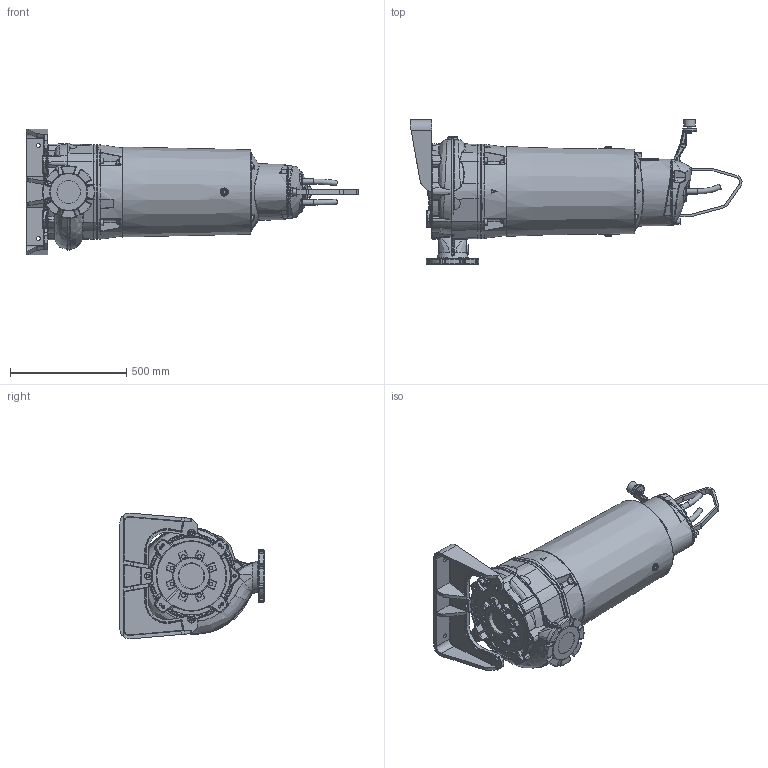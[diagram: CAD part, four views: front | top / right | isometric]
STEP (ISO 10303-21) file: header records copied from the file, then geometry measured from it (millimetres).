
FILE_DESCRIPTION (( 'STEP AP203' ), '1' );
FILE_NAME ('PE3.5 100G CB1 DRY Horizontal.STEP', '2018-08-16T09:30:16', ( '' ), ( '' ), 'SwSTEP 2.0', 'SolidWorks 2017', '' );
FILE_SCHEMA (( 'CONFIG_CONTROL_DESIGN' ));
Products named in the file (2): PE3.5 100G CB1 DRY Horizontal
Bounding box: 1426.9 x 625 x 540.84 mm (x, y, z)
Volume: 165256412.2 mm3; surface area: 4596012.8 mm2
Topology: 36 solids, 36 shells, 3495 faces, 8147 edges, 4714 vertices
Faces by surface type: cylinder 1077, bspline 949, plane 801, torus 422, cone 170, sphere 76
Full cylindrical faces by diameter (mm): 2.9 x4, 5 x2, 6 x2, 6.8 x7, 8 x7, 9 x7, 10 x9, 10.2 x12, 10.5 x1, 11 x6, 12 x23, 12.5 x4, 13 x16, 14 x16, 15 x5, 16 x24, 17 x6, 17.5 x2, 18 x22, 18.6 x1, 20 x7, 22 x2, 24 x6, 26 x6, 38 x2, 40 x3, 50 x1, 60 x1, 100 x1, 158 x1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
Entity records: 142302 total; most frequent: CARTESIAN_POINT 72489, ORIENTED_EDGE 15028, DIRECTION 13229, EDGE_CURVE 7514, AXIS2_PLACEMENT_3D 5424, VERTEX_POINT 4590, EDGE_LOOP 4110, FACE_OUTER_BOUND 3786
